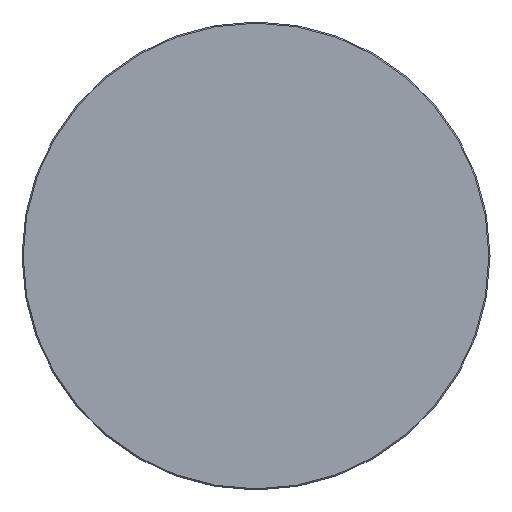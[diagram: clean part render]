
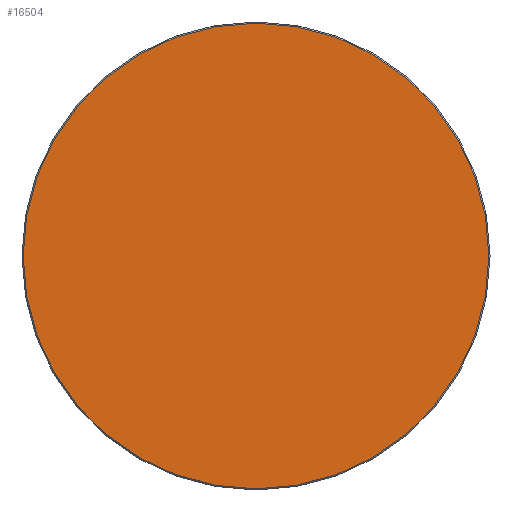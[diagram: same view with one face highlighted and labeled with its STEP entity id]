
A CAD part, top view. The second image highlights one B-rep face of the part: STEP entity #16504.
In plain terms, the highlighted planar face has unit normal (0, 0, 1).
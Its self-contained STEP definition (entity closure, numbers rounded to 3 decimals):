
#16429=CARTESIAN_POINT('',(0.,0.,20.));
#16430=DIRECTION('',(1.,0.,0.));
#16431=DIRECTION('',(0.,0.,1.));
#16432=AXIS2_PLACEMENT_3D('',#16429,#16431,#16430);
#16433=PLANE('',#16432);
#16434=CARTESIAN_POINT('',(-0.5,-298.5,20.));
#16435=VERTEX_POINT('',#16434);
#16436=CARTESIAN_POINT('',(0.5,-298.5,20.));
#16437=VERTEX_POINT('',#16436);
#16438=CARTESIAN_POINT('',(-0.5,-298.5,20.));
#16439=DIRECTION('',(1.,0.,0.));
#16440=VECTOR('',#16439,1.);
#16441=LINE('',#16438,#16440);
#16442=EDGE_CURVE('',#16435,#16437,#16441,.T.);
#16443=ORIENTED_EDGE('E105',*,*,#16442,.T.);
#16444=CARTESIAN_POINT('',(298.5,-0.5,20.));
#16445=VERTEX_POINT('',#16444);
#16446=CARTESIAN_POINT('',(0.5,-0.5,20.));
#16447=DIRECTION('',(0.,-1.,0.));
#16448=DIRECTION('',(0.,-0.,1.));
#16449=AXIS2_PLACEMENT_3D('',#16446,#16448,#16447);
#16450=CIRCLE('',#16449,298.);
#16451=EDGE_CURVE('',#16437,#16445,#16450,.T.);
#16452=ORIENTED_EDGE('E107',*,*,#16451,.T.);
#16453=CARTESIAN_POINT('',(298.5,0.5,20.));
#16454=VERTEX_POINT('',#16453);
#16455=CARTESIAN_POINT('',(298.5,-0.5,20.));
#16456=DIRECTION('',(0.,1.,0.));
#16457=VECTOR('',#16456,1.);
#16458=LINE('',#16455,#16457);
#16459=EDGE_CURVE('',#16445,#16454,#16458,.T.);
#16460=ORIENTED_EDGE('E109',*,*,#16459,.T.);
#16461=CARTESIAN_POINT('',(0.5,298.5,20.));
#16462=VERTEX_POINT('',#16461);
#16463=CARTESIAN_POINT('',(0.5,0.5,20.));
#16464=DIRECTION('',(1.,0.,0.));
#16465=DIRECTION('',(0.,0.,1.));
#16466=AXIS2_PLACEMENT_3D('',#16463,#16465,#16464);
#16467=CIRCLE('',#16466,298.);
#16468=EDGE_CURVE('',#16454,#16462,#16467,.T.);
#16469=ORIENTED_EDGE('E111',*,*,#16468,.T.);
#16470=CARTESIAN_POINT('',(-0.5,298.5,20.));
#16471=VERTEX_POINT('',#16470);
#16472=CARTESIAN_POINT('',(0.5,298.5,20.));
#16473=DIRECTION('',(-1.,0.,0.));
#16474=VECTOR('',#16473,1.);
#16475=LINE('',#16472,#16474);
#16476=EDGE_CURVE('',#16462,#16471,#16475,.T.);
#16477=ORIENTED_EDGE('E113',*,*,#16476,.T.);
#16478=CARTESIAN_POINT('',(-298.5,0.5,20.));
#16479=VERTEX_POINT('',#16478);
#16480=CARTESIAN_POINT('',(-0.5,0.5,20.));
#16481=DIRECTION('',(0.,1.,0.));
#16482=DIRECTION('',(0.,0.,1.));
#16483=AXIS2_PLACEMENT_3D('',#16480,#16482,#16481);
#16484=CIRCLE('',#16483,298.);
#16485=EDGE_CURVE('',#16471,#16479,#16484,.T.);
#16486=ORIENTED_EDGE('E115',*,*,#16485,.T.);
#16487=CARTESIAN_POINT('',(-298.5,-0.5,20.));
#16488=VERTEX_POINT('',#16487);
#16489=CARTESIAN_POINT('',(-298.5,0.5,20.));
#16490=DIRECTION('',(0.,-1.,0.));
#16491=VECTOR('',#16490,1.);
#16492=LINE('',#16489,#16491);
#16493=EDGE_CURVE('',#16479,#16488,#16492,.T.);
#16494=ORIENTED_EDGE('E117',*,*,#16493,.T.);
#16495=CARTESIAN_POINT('',(-0.5,-0.5,20.));
#16496=DIRECTION('',(-1.,0.,0.));
#16497=DIRECTION('',(-0.,0.,1.));
#16498=AXIS2_PLACEMENT_3D('',#16495,#16497,#16496);
#16499=CIRCLE('',#16498,298.);
#16500=EDGE_CURVE('',#16488,#16435,#16499,.T.);
#16501=ORIENTED_EDGE('E119',*,*,#16500,.T.);
#16502=EDGE_LOOP('',(#16443,#16452,#16460,#16469,#16477,#16486,#16494,#16501));
#16503=FACE_OUTER_BOUND('',#16502,.T.);
#16504=ADVANCED_FACE('F2',(#16503),#16433,.T.);
